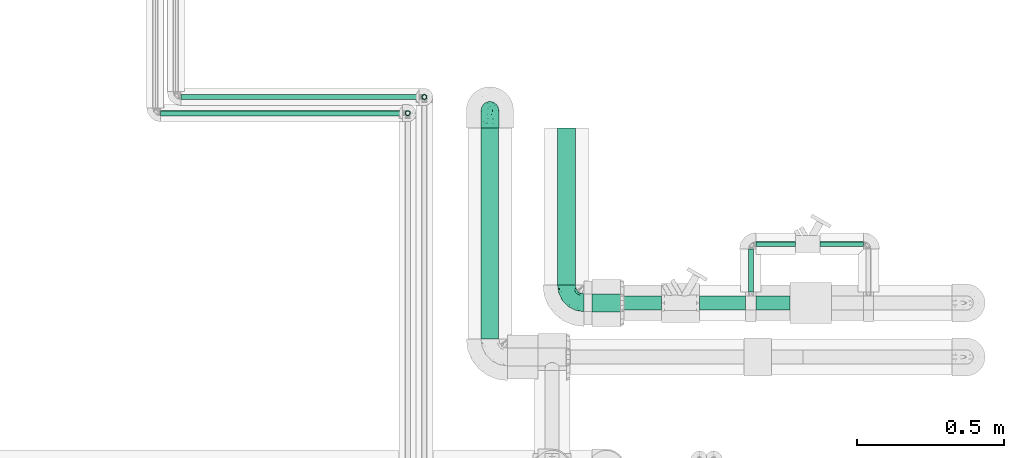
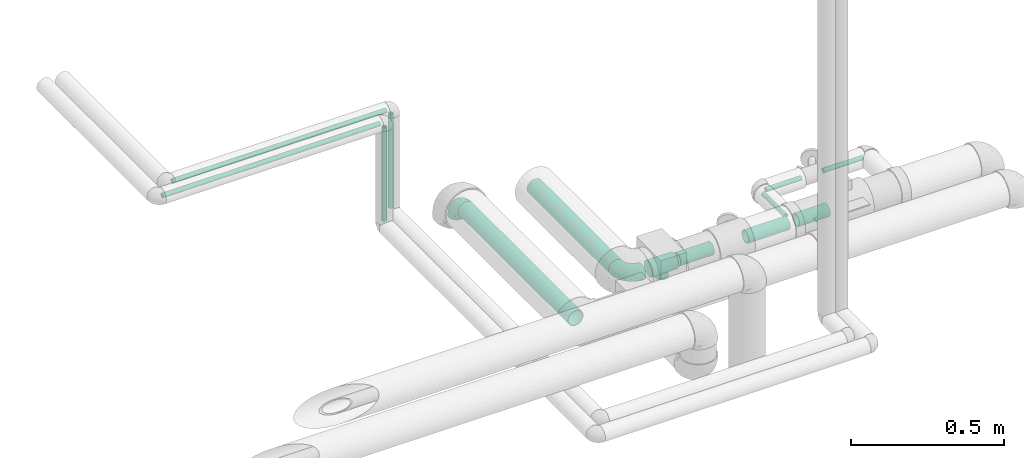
# One storey, part 38 of 83: 12 flow segments, 3 flow fittings.
"""IFC2X3 building model written with IfcOpenShell, lengths in millimetres."""

from ifc_helpers import new_model, entity, si_unit, converted_unit, derived_unit, direction, frame, origin_with_axes, origin_2d_with_axis, place, context, subcontext, project, spatial, hollow_circle, extrude, open_shell, surface_model, source, transform, mapped, type_object, element, save


model = new_model("IFC2X3")

# Units and contexts
model_context = context("Model", 3, precision=0.01, world=frame((0.0, 4.29681676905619e-09, 0.0)), true_north=direction((4.01073788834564e-13, 1.0)))
plan_context = context("Plan", 3, precision=0.01, world=frame((0.0, 4.29681676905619e-09, 0.0)), true_north=direction((4.01073788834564e-13, 1.0)))
body_context = subcontext(model_context, "Body", "Model", "MODEL_VIEW")
ifc_project = project(units=[converted_unit("PLANEANGLEUNIT", "DEGREE", entity("IfcPositiveLengthMeasure", 0.0174532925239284), si_unit("PLANEANGLEUNIT", "RADIAN"), dimensions=[0, 0, 0, 0, 0, 0, 0]), si_unit("AREAUNIT", "SQUARE_METRE"), si_unit("LENGTHUNIT", "METRE", prefix="MILLI"), si_unit("MASSUNIT", "GRAM", prefix="KILO"), si_unit("POWERUNIT", "WATT"), si_unit("PRESSUREUNIT", "PASCAL"), si_unit("FORCEUNIT", "NEWTON", prefix="KILO"), si_unit("ELECTRICVOLTAGEUNIT", "VOLT"), si_unit("ELECTRICCURRENTUNIT", "AMPERE"), si_unit("THERMODYNAMICTEMPERATUREUNIT", "DEGREE_CELSIUS"), si_unit("TIMEUNIT", "SECOND"), si_unit("VOLUMEUNIT", "CUBIC_METRE"), derived_unit("LINEARVELOCITYUNIT", [(si_unit("LENGTHUNIT", "METRE"), 1), (si_unit("TIMEUNIT", "SECOND"), -1)]), derived_unit("VOLUMETRICFLOWRATEUNIT", [(si_unit("VOLUMEUNIT", "CUBIC_METRE"), 1), (si_unit("TIMEUNIT", "SECOND"), -1)]), derived_unit("THERMALTRANSMITTANCEUNIT", [(si_unit("POWERUNIT", "WATT"), 1), (si_unit("THERMODYNAMICTEMPERATUREUNIT", "KELVIN"), -1), (si_unit("AREAUNIT", "SQUARE_METRE"), -1)]), derived_unit("SOUNDPRESSUREUNIT", [(si_unit("PRESSUREUNIT", "PASCAL"), 1)])], contexts=[model_context, plan_context])

# Site, building, storey
site_placement = place(None, frame((0.0, -4.29681676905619e-09, 0.0), z_axis=(0.0, 0.0, 1.0), x_axis=(1.0, 0.0, 0.0)))
site = spatial("IfcSite", under=ifc_project, at=site_placement, Name="ENGM", CompositionType="ELEMENT")
building_placement = place(site_placement, frame((0.0, 4.29681676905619e-09, 0.0), z_axis=(0.0, 0.0, 1.0), x_axis=(1.0, 0.0, 0.0)))
building = spatial("IfcBuilding", under=site, at=building_placement, Name="TI", CompositionType="ELEMENT")
storey_placement = place(building_placement, frame((0.0, 0.0, 204000.0), z_axis=(0.0, 0.0, 1.0), x_axis=(1.0, 0.0, 0.0)))
storey = spatial("IfcBuildingStorey", under=building, at=storey_placement, Name="Nivå D", CompositionType="ELEMENT", Elevation=204000.0)

# Flow fittings
pipe_fitting_type_1 = type_object("IfcPipeFittingType", Name="magi_pipe_fe_elbow_short_001", PredefinedType="BEND")
shared_shape_1 = source(origin_with_axes(), body_context, "Body", "SurfaceModel", [
    surface_model("IfcShellBasedSurfaceModel", [(-60.4, 15.1, -26.15397), (-60.4, 7.81634, -29.17096), (-60.4, 0.0, -30.2), (-60.4, 21.35462, -21.35462), (-60.4, 26.15397, -15.1), (-60.4, -15.1, -26.15397), (-60.4, -21.35462, -21.35462), (-60.4, -7.81634, -29.17096), (-60.4, -26.15397, -15.1), (-60.4, -29.17096, -7.81634), (-60.4, 29.17096, -7.81634), (-60.4, -30.2, 0.0), (-60.4, -29.17096, 7.81634), (-60.4, 29.17096, 7.81634), (-60.4, -21.35462, 21.35462), (-60.4, 26.15397, 15.1), (-60.4, 21.35462, 21.35462), (-60.4, 7.81634, 29.17096), (-60.4, 15.1, 26.15397), (-60.4, -26.15397, 15.1), (-60.4, -7.81634, 29.17096), (-60.4, 0.0, 30.2), (-60.4, -15.1, 26.15397), (-60.4, 30.2, 0.0), (0.0, 60.4, -30.2), (-7.81634, 60.4, -29.17096), (-15.1, 60.4, -26.15397), (-26.15397, 60.4, -15.1), (-29.17096, 60.4, -7.81634), (-21.35462, 60.4, -21.35462), (29.17096, 60.4, -7.81634), (7.81634, 60.4, -29.17096), (21.35462, 60.4, -21.35462), (15.1, 60.4, -26.15397), (26.15397, 60.4, -15.1), (29.17096, 60.4, 7.81634), (30.2, 60.4, 0.0), (-29.17096, 60.4, 7.81634), (21.35462, 60.4, 21.35462), (-21.35462, 60.4, 21.35462), (-26.15397, 60.4, 15.1), (-15.1, 60.4, 26.15397), (-7.81634, 60.4, 29.17096), (26.15397, 60.4, 15.1), (15.1, 60.4, 26.15397), (0.0, 60.4, 30.2), (7.81634, 60.4, 29.17096), (-30.2, 60.4, 0.0), (-40.79975, -26.48639, 9.49143), (-44.2927, -23.46036, 16.95222), (-32.40306, -25.76572, 0.0), (-45.54716, -27.84754, 0.0), (-7.73382, -10.42985, 11.64553), (-2.102, -8.06735, 6.35117), (1.74449, -1.74448, 12.51332), (-46.13593, -4.00068, 29.68351), (-42.2898, 4.62925, 30.14853), (10.31662, 7.37496, 11.34434), (18.44156, 24.57514, 15.02148), (7.07276, 10.95732, 19.27498), (-30.06693, -0.27102, 29.27145), (-44.17726, -11.39441, 27.16031), (-23.4551, -7.13383, 25.24246), (-38.74025, -17.25266, 22.43475), (-27.059, -23.14697, 6.2131), (-19.77486, -19.33133, 0.0), (-10.95732, -7.07276, 19.27498), (-5.39458, 5.39458, 24.69106), (-29.52069, 48.20084, 13.12597), (-25.22813, 47.01796, 19.8404), (-11.27311, 52.093, 28.2877), (-4.13904, 45.17494, 30.12582), (-46.55352, 11.8443, 28.52822), (-7.88305, 20.22717, 29.65331), (-15.00576, 5.54025, 28.20072), (-3.0852, 16.31623, 27.75343), (-52.24998, 18.2886, 24.60768), (-10.49591, 29.69865, 30.14582), (-22.36958, 22.36958, 29.4662), (-17.98262, 13.19715, 30.04443), (-47.74519, 32.16745, 6.63994), (-48.21585, 29.51581, 13.12396), (-37.49729, 37.49729, 11.28901), (-47.20967, 25.1754, 19.81929), (17.25266, 38.74025, 22.43475), (-31.32046, 40.03273, 17.09289), (11.39441, 44.17725, 27.16031), (23.46036, 44.2927, 16.95222), (26.48639, 40.79975, 9.49143), (-7.14666, -12.89694, 0.0), (-14.66463, -16.61192, 7.82462), (4.00068, 46.13593, 29.68351), (-33.18602, 12.93608, 29.65955), (-29.63414, 7.40029, 30.18711), (19.33133, 19.77486, 0.0), (23.14697, 27.059, 6.2131), (16.61192, 14.66463, 7.82462), (27.84754, 45.54716, 0.0), (-32.10611, 20.49149, 27.93323), (-24.57514, -18.44156, 15.02148), (-21.89487, 39.03366, 25.38224), (-18.45005, 50.6405, 24.73297), (-31.78933, 48.71949, 6.47886), (-37.84917, 39.61073, 5.315), (13.91334, 24.32737, 20.46816), (7.13383, 23.4551, 25.24246), (-34.24603, 45.3, 0.0), (-27.95749, 31.89166, 24.81537), (-41.58677, 20.50028, 25.43151), (-0.46157, 0.46157, 17.84239), (-17.23338, 31.26213, 29.03145), (-24.05994, 29.23812, 27.47858), (-13.06094, 40.92174, 28.76128), (-31.83392, 33.72702, 21.39203), (-38.78737, 32.45032, 16.84022), (0.27102, 30.06693, 29.27145), (-24.21469, -13.23741, 21.05734), (8.23548, 2.19333, 6.02161), (25.76572, 32.40306, 0.0), (12.89694, 7.14666, 0.0), (-45.3, 34.24603, 0.0), (2.87514, -2.87514, 0.0), (-44.53432, 26.00869, -20.11577), (-48.18822, 29.5248, -13.12766), (-24.67192, -7.62159, -25.33714), (-26.22398, -0.37671, -28.72374), (-12.13397, -0.50536, -24.74577), (-47.80891, 3.81859, -30.10171), (-44.05719, -27.03585, -9.84546), (-37.94552, -22.39569, -16.35738), (-28.81663, -22.64668, -10.132), (-43.93799, 12.32789, -28.63778), (-33.27, 7.1392, -30.19348), (-26.0087, 44.53432, -20.11577), (-48.89164, 31.68872, -6.60822), (-18.95522, 47.41145, -24.9828), (-12.32789, 43.93799, -28.63778), (-38.42778, 38.42778, -7.21049), (18.04263, 43.69152, -22.80146), (10.42233, 38.24532, -26.85918), (11.90576, 51.00473, -27.48545), (-5.88381, -10.62327, -7.95335), (-5.9694, -7.83116, -13.76182), (3.24899, -2.56331, -7.96861), (-17.62229, 16.32998, -30.18286), (-28.62959, 17.86952, -29.30113), (-47.41145, 18.95522, -24.98279), (-50.84455, -24.04089, -17.54629), (-29.38053, 34.30665, -22.74674), (-27.91099, 27.91099, -26.51666), (-36.91219, 25.51094, -23.99233), (2.63361, -0.55507, -12.94367), (-43.69152, -18.04263, -22.80146), (22.39569, 37.94552, -16.35738), (27.03585, 44.05719, -9.84546), (22.64668, 28.81663, -10.132), (-51.00473, -11.90576, -27.48545), (3.80785, 44.49426, -29.64782), (-19.0921, -14.69952, -16.47487), (-22.5489, -12.31934, -21.1263), (-10.94772, -7.46239, -18.88204), (-32.95885, -13.78948, -23.71249), (-38.24532, -10.42233, -26.85918), (-44.49427, -3.80785, -29.64782), (-22.6301, 37.15314, -25.58239), (-31.68872, 48.89164, -6.60822), (-3.8186, 47.80891, -30.10171), (-10.66133, 10.66133, -28.51691), (0.37671, 26.22398, -28.72374), (1.27136, 14.18619, -25.18541), (-29.5248, 48.18821, -13.12766), (-36.27113, 36.27113, -14.88553), (24.04089, 50.84455, -17.54629), (17.50188, 24.2636, -16.21902), (9.73525, 11.44907, -16.75087), (12.31934, 22.5489, -21.1263), (6.24176, 25.78208, -26.38266), (-7.1392, 33.27, -30.19348), (-36.7166, 19.4356, -27.21946), (-18.00754, 29.38864, -29.15505), (-0.28629, 0.28629, -17.49884), (-13.98848, -16.88492, -5.19509), (15.48569, 15.00432, -11.24742), (16.88492, 13.98848, -5.19509), (3.55782, 9.20508, -21.18402), (-15.00432, -15.48569, -11.24742)], [open_shell([[[0, 1, 2]], [[3, 0, 4]], [[5, 6, 7]], [[6, 2, 7]], [[8, 9, 6]], [[0, 2, 6]], [[4, 0, 6]], [[10, 4, 6]], [[6, 9, 10]], [[11, 12, 9]], [[13, 10, 9]], [[13, 9, 14]], [[15, 13, 16]], [[17, 18, 16]], [[13, 17, 16]], [[17, 13, 14]], [[19, 14, 12]], [[12, 14, 9]], [[20, 21, 22]], [[17, 14, 22]], [[17, 22, 21]], [[13, 23, 10]], [[24, 25, 26]], [[24, 26, 27]], [[27, 28, 24]], [[27, 26, 29]], [[24, 28, 30]], [[31, 32, 33]], [[31, 24, 32]], [[32, 30, 34]], [[24, 30, 32]], [[30, 35, 36]], [[30, 28, 37]], [[38, 30, 37]], [[39, 37, 40]], [[39, 41, 42]], [[39, 42, 37]], [[38, 37, 42]], [[35, 38, 43]], [[30, 38, 35]], [[44, 45, 46]], [[44, 38, 42]], [[45, 44, 42]], [[28, 47, 37]], [[48, 49, 19]], [[50, 48, 51]], [[52, 53, 54]], [[12, 48, 19]], [[12, 51, 48]], [[21, 55, 56]], [[19, 49, 14]], [[57, 58, 59]], [[60, 61, 62]], [[63, 22, 14]], [[63, 61, 22]], [[64, 50, 65]], [[62, 66, 67]], [[40, 68, 69]], [[42, 70, 71]], [[17, 72, 18]], [[73, 74, 75]], [[18, 76, 16]], [[20, 55, 21]], [[77, 78, 79]], [[80, 81, 82]], [[15, 83, 81]], [[84, 38, 44]], [[23, 13, 80]], [[13, 15, 81]], [[68, 85, 69]], [[83, 15, 16]], [[21, 56, 17]], [[44, 86, 84]], [[16, 76, 83]], [[87, 58, 88]], [[40, 37, 68]], [[89, 90, 65]], [[45, 91, 46]], [[65, 90, 64]], [[45, 42, 71]], [[92, 93, 79]], [[88, 35, 43]], [[43, 38, 87]], [[87, 88, 43]], [[94, 95, 96]], [[88, 97, 35]], [[98, 72, 92]], [[49, 99, 63]], [[69, 100, 101]], [[82, 102, 103]], [[104, 105, 59]], [[106, 102, 47]], [[98, 107, 108]], [[102, 82, 68]], [[86, 44, 46]], [[69, 39, 40]], [[109, 54, 57]], [[110, 100, 111]], [[22, 61, 20]], [[101, 41, 39]], [[70, 42, 41]], [[112, 77, 71]], [[84, 86, 105]], [[96, 95, 58]], [[100, 69, 113]], [[72, 17, 56]], [[108, 113, 83]], [[81, 114, 82]], [[112, 110, 77]], [[91, 71, 115]], [[62, 61, 63]], [[55, 61, 60]], [[116, 99, 66]], [[74, 62, 67]], [[91, 86, 46]], [[105, 86, 115]], [[75, 105, 115]], [[109, 67, 66]], [[59, 105, 67]], [[48, 64, 99]], [[99, 49, 48]], [[63, 14, 49]], [[38, 84, 87]], [[58, 87, 84]], [[92, 72, 56]], [[76, 72, 108]], [[102, 68, 37]], [[82, 114, 85]], [[98, 111, 107]], [[112, 70, 101]], [[114, 83, 113]], [[82, 103, 80]], [[92, 79, 78]], [[115, 71, 77]], [[74, 79, 60]], [[77, 79, 73]], [[71, 91, 45]], [[86, 91, 115]], [[61, 55, 20]], [[56, 55, 60]], [[57, 54, 117]], [[104, 59, 58]], [[116, 66, 62]], [[52, 99, 90]], [[12, 11, 51]], [[97, 88, 118]], [[97, 36, 35]], [[53, 90, 89]], [[90, 53, 52]], [[94, 96, 119]], [[88, 95, 118]], [[117, 54, 53]], [[92, 56, 93]], [[98, 92, 78]], [[111, 98, 78]], [[72, 98, 108]], [[110, 111, 78]], [[107, 111, 100]], [[47, 102, 37]], [[102, 106, 103]], [[106, 120, 103]], [[103, 120, 80]], [[23, 80, 120]], [[13, 81, 80]], [[56, 60, 93]], [[60, 79, 93]], [[117, 121, 119]], [[121, 117, 53]], [[53, 89, 121]], [[119, 96, 117]], [[117, 96, 57]], [[77, 110, 78]], [[100, 110, 112]], [[83, 114, 81]], [[85, 114, 113]], [[69, 85, 113]], [[82, 85, 68]], [[109, 52, 54]], [[99, 52, 66]], [[69, 101, 39]], [[112, 101, 100]], [[100, 113, 107]], [[108, 107, 113]], [[62, 74, 60]], [[75, 74, 67]], [[105, 75, 67]], [[73, 75, 115]], [[77, 73, 115]], [[74, 73, 79]], [[99, 64, 90]], [[50, 64, 48]], [[118, 95, 94]], [[58, 95, 88]], [[58, 57, 96]], [[109, 57, 59]], [[72, 76, 18]], [[83, 76, 108]], [[101, 70, 41]], [[71, 70, 112]], [[58, 84, 104]], [[105, 104, 84]], [[67, 109, 59]], [[52, 109, 66]], [[62, 63, 116]], [[99, 116, 63]], [[122, 4, 123]], [[124, 125, 126]], [[2, 1, 127]], [[128, 129, 130]], [[127, 131, 132]], [[27, 29, 133]], [[120, 134, 23]], [[135, 26, 136]], [[123, 134, 137]], [[138, 139, 140]], [[122, 3, 4]], [[141, 142, 143]], [[144, 132, 145]], [[131, 0, 146]], [[128, 8, 147]], [[148, 149, 150]], [[128, 51, 9]], [[142, 151, 143]], [[152, 6, 5]], [[153, 154, 155]], [[156, 152, 5]], [[31, 157, 24]], [[158, 159, 160]], [[147, 8, 6]], [[129, 152, 161]], [[156, 5, 7]], [[162, 163, 125]], [[154, 34, 30]], [[120, 106, 137]], [[149, 148, 164]], [[47, 28, 165]], [[163, 7, 2]], [[4, 10, 123]], [[25, 166, 136]], [[167, 168, 169]], [[170, 133, 171]], [[25, 24, 166]], [[33, 32, 138]], [[157, 31, 140]], [[28, 27, 170]], [[32, 34, 172]], [[26, 135, 29]], [[132, 131, 145]], [[31, 33, 140]], [[173, 174, 175]], [[169, 168, 176]], [[25, 136, 26]], [[175, 138, 173]], [[168, 177, 157]], [[163, 162, 156]], [[153, 172, 154]], [[8, 128, 9]], [[154, 97, 118]], [[131, 178, 145]], [[0, 3, 146]], [[175, 139, 138]], [[155, 118, 94]], [[131, 1, 0]], [[146, 178, 131]], [[170, 137, 165]], [[149, 179, 145]], [[171, 133, 148]], [[160, 180, 142]], [[65, 181, 89]], [[170, 165, 28]], [[137, 171, 123]], [[172, 138, 32]], [[138, 153, 173]], [[168, 157, 139]], [[166, 157, 177]], [[176, 175, 169]], [[168, 167, 144]], [[154, 30, 97]], [[155, 182, 173]], [[162, 124, 161]], [[147, 152, 129]], [[127, 163, 2]], [[132, 144, 125]], [[132, 125, 163]], [[125, 167, 126]], [[129, 158, 130]], [[30, 36, 97]], [[143, 182, 183]], [[169, 126, 167]], [[3, 122, 146]], [[178, 150, 149]], [[136, 179, 164]], [[133, 29, 135]], [[123, 10, 134]], [[122, 123, 171]], [[133, 170, 27]], [[137, 170, 171]], [[184, 175, 174]], [[180, 160, 126]], [[126, 169, 184]], [[126, 159, 124]], [[51, 128, 50]], [[51, 11, 9]], [[131, 127, 1]], [[163, 127, 132]], [[157, 166, 24]], [[136, 166, 177]], [[164, 179, 149]], [[144, 167, 125]], [[179, 144, 145]], [[168, 144, 177]], [[136, 177, 179]], [[144, 179, 177]], [[141, 121, 89]], [[89, 181, 141]], [[154, 118, 155]], [[183, 155, 94]], [[143, 183, 119]], [[119, 183, 94]], [[155, 183, 182]], [[181, 130, 185]], [[50, 128, 130]], [[130, 181, 65]], [[50, 130, 65]], [[141, 181, 185]], [[142, 141, 185]], [[143, 121, 141]], [[158, 160, 142]], [[142, 180, 151]], [[158, 142, 185]], [[126, 160, 159]], [[130, 158, 185]], [[129, 159, 158]], [[23, 134, 10]], [[120, 137, 134]], [[137, 106, 165]], [[47, 165, 106]], [[174, 151, 180]], [[182, 143, 151]], [[150, 146, 122]], [[149, 145, 178]], [[146, 150, 178]], [[122, 171, 148]], [[148, 150, 122]], [[164, 133, 135]], [[133, 164, 148]], [[164, 135, 136]], [[138, 140, 33]], [[157, 140, 139]], [[154, 172, 34]], [[138, 172, 153]], [[163, 156, 7]], [[152, 156, 162]], [[152, 147, 6]], [[128, 147, 129]], [[155, 173, 153]], [[174, 173, 182]], [[151, 174, 182]], [[174, 180, 184]], [[126, 184, 180]], [[175, 184, 169]], [[168, 139, 176]], [[175, 176, 139]], [[161, 124, 159]], [[125, 124, 162]], [[129, 161, 159]], [[162, 161, 152]], [[143, 119, 121]]])]),
])
for number, where, z_axis, x_axis, name in (
    (1, (608617.36825, 698092.0, 5915.24411), (0.0, 0.0, 1.0), (0.0, -1.0, 0.0), "magi_pipe_fe_elbow_short_001"),
    (2, (608357.36825, 698746.21699, 5915.24411), (-1.0, 0.0, 0.0), (0.0, 1.0, 0.0), "magi_pipe_fe_elbow_short_001"),
):
    element("IfcFlowFitting", number, at=place(storey_placement, frame(where, z_axis=z_axis, x_axis=x_axis)), inside=storey, type_object=pipe_fitting_type_1, Name=name, context=body_context, shape_type="MappedRepresentation", body=[
        mapped(shared_shape_1, transform((0.0, 0.0, 0.0), scale=1.0)),
    ])
pipe_fitting_type_2 = type_object("IfcPipeFittingType", Name="magi_pipe_fe_tee_centric_90_NOR", PredefinedType="JUNCTION")
shared_shape_2 = source(origin_with_axes(), body_context, "Body", "SurfaceModel", [
    surface_model("IfcShellBasedSurfaceModel", [(-48.4, 15.1, -26.15397), (-48.4, 7.81634, -29.17096), (-48.4, 0.0, -30.2), (-48.4, 29.17096, -7.81634), (-48.4, 26.15397, -15.1), (-48.4, 21.35462, -21.35462), (-48.4, 30.2, 0.0), (-48.4, -30.2, 0.0), (-48.4, -15.1, -26.15397), (-48.4, -21.35462, -21.35462), (-48.4, -7.81634, -29.17096), (-48.4, -26.15397, -15.1), (-48.4, -29.17096, -7.81634), (-48.4, 26.15397, 15.1), (-48.4, 29.17096, 7.81634), (-48.4, 15.1, 26.15397), (-48.4, -21.35462, 21.35462), (-48.4, 21.35462, 21.35462), (-48.4, 7.81634, 29.17096), (-48.4, -29.17096, 7.81634), (-48.4, -26.15397, 15.1), (-48.4, -15.1, 26.15397), (-48.4, -7.81634, 29.17096), (-48.4, 0.0, 30.2), (48.4, 0.0, -30.2), (48.4, 7.81634, -29.17096), (48.4, 15.1, -26.15397), (48.4, 21.35462, -21.35462), (48.4, -7.81634, -29.17096), (48.4, 26.15397, -15.1), (48.4, 29.17096, -7.81634), (48.4, -21.35462, -21.35462), (48.4, -15.1, -26.15397), (48.4, -29.17096, -7.81634), (48.4, -26.15397, -15.1), (48.4, -30.2, 0.0), (48.4, 30.2, 0.0), (48.4, 29.17096, 7.81634), (48.4, 26.15397, 15.1), (48.4, -29.17096, 7.81634), (48.4, 15.1, 26.15397), (48.4, 7.81634, 29.17096), (48.4, 21.35462, 21.35462), (48.4, -21.35462, 21.35462), (48.4, -26.15397, 15.1), (48.4, -15.1, 26.15397), (48.4, 0.0, 30.2), (48.4, -7.81634, 29.17096), (24.2, -30.2, 0.0), (22.60269, -28.93582, 8.64629), (18.34349, -25.74653, 15.78469), (12.2058, -21.80325, 20.89638), (4.41265, -18.59762, 23.7943), (-24.2, -30.2, 0.0), (-22.60359, -28.93652, 8.64395), (-12.20756, -21.80423, 20.89535), (-4.42042, -18.59947, 23.79285), (-18.34713, -25.74912, 15.78045), (4.41265, -18.59762, -23.7943), (18.34349, -25.74653, -15.78469), (12.2058, -21.80325, -20.89638), (22.60269, -28.93582, -8.64629), (-4.42042, -18.59947, -23.79285), (-12.20756, -21.80423, -20.89535), (-18.34713, -25.74912, -15.78045), (-22.60359, -28.93652, -8.64395), (0.0, -45.3, -24.2), (6.26342, -45.3, -23.37541), (12.1, -45.3, -20.95781), (12.1, -45.3, 20.95781), (17.11198, -45.3, -17.11198), (20.95781, -45.3, -12.1), (23.37541, -45.3, -6.26342), (-12.1, -45.3, -20.95781), (-20.95781, -45.3, -12.1), (-17.11198, -45.3, -17.11198), (-6.26342, -45.3, -23.37541), (-23.37541, -45.3, -6.26342), (-24.2, -45.3, 0.0), (24.2, -45.3, 0.0), (23.37541, -45.3, 6.26342), (20.95781, -45.3, 12.1), (-23.37541, -45.3, 6.26342), (17.11198, -45.3, 17.11198), (6.26342, -45.3, 23.37541), (-17.11198, -45.3, 17.11198), (-20.95781, -45.3, 12.1), (-12.1, -45.3, 20.95781), (0.0, -45.3, 24.2), (-6.26342, -45.3, 23.37541), (-23.40179, -29.56826, 4.32197), (-0.00389, -18.59854, 23.79357), (23.40135, -29.56791, 4.32314), (23.40135, -29.56791, -4.32314), (-0.00389, -18.59854, -23.79357), (-23.40179, -29.56826, -4.32197)], [open_shell([[[0, 1, 2]], [[3, 0, 2]], [[0, 3, 4]], [[5, 0, 4]], [[6, 2, 7]], [[8, 9, 10]], [[9, 2, 10]], [[11, 12, 9]], [[7, 9, 12]], [[9, 7, 2]], [[6, 3, 2]], [[13, 14, 6]], [[7, 15, 13]], [[7, 16, 15]], [[17, 13, 15]], [[18, 15, 16]], [[19, 20, 7]], [[7, 20, 16]], [[21, 22, 16]], [[23, 16, 22]], [[16, 23, 18]], [[7, 13, 6]], [[24, 25, 26]], [[24, 26, 27]], [[28, 27, 29]], [[27, 28, 24]], [[28, 29, 30]], [[28, 31, 32]], [[31, 28, 33]], [[31, 33, 34]], [[33, 28, 35]], [[28, 30, 35]], [[30, 36, 35]], [[36, 37, 38]], [[39, 36, 38]], [[40, 41, 38]], [[40, 38, 42]], [[43, 38, 41]], [[39, 43, 44]], [[39, 38, 43]], [[45, 46, 47]], [[46, 45, 43]], [[41, 46, 43]], [[36, 39, 35]], [[35, 39, 48]], [[49, 48, 39]], [[39, 44, 49]], [[44, 43, 50]], [[51, 50, 43]], [[52, 51, 43]], [[43, 45, 52]], [[44, 50, 49]], [[53, 54, 19]], [[19, 7, 53]], [[54, 20, 19]], [[55, 56, 16]], [[20, 57, 16]], [[57, 20, 54]], [[16, 57, 55]], [[56, 21, 16]], [[52, 21, 56]], [[23, 47, 46]], [[22, 45, 47]], [[18, 46, 41]], [[38, 37, 14]], [[17, 40, 42]], [[13, 42, 38]], [[41, 40, 15]], [[6, 37, 36]], [[21, 45, 22]], [[22, 47, 23]], [[18, 23, 46]], [[41, 15, 18]], [[15, 40, 17]], [[13, 17, 42]], [[14, 13, 38]], [[37, 6, 14]], [[45, 21, 52]], [[4, 30, 29]], [[3, 36, 30]], [[5, 29, 27]], [[24, 28, 10]], [[1, 26, 25]], [[2, 25, 24]], [[27, 26, 0]], [[8, 28, 32]], [[6, 36, 3]], [[3, 30, 4]], [[5, 4, 29]], [[27, 0, 5]], [[0, 26, 1]], [[2, 1, 25]], [[10, 2, 24]], [[28, 8, 10]], [[32, 58, 8]], [[31, 59, 60]], [[59, 31, 34]], [[60, 58, 31]], [[31, 58, 32]], [[33, 35, 48]], [[33, 61, 34]], [[61, 33, 48]], [[34, 61, 59]], [[62, 63, 9]], [[9, 64, 11]], [[64, 9, 63]], [[62, 9, 8]], [[65, 53, 12]], [[65, 12, 11]], [[12, 53, 7]], [[65, 11, 64]], [[58, 62, 8]], [[66, 67, 68]], [[69, 66, 68]], [[70, 71, 72]], [[70, 72, 68]], [[69, 73, 66]], [[73, 74, 75]], [[73, 76, 66]], [[73, 77, 74]], [[77, 73, 78]], [[73, 69, 78]], [[79, 68, 72]], [[79, 80, 81]], [[79, 81, 69]], [[69, 82, 78]], [[69, 81, 83]], [[82, 69, 84]], [[82, 85, 86]], [[82, 84, 85]], [[87, 88, 89]], [[88, 87, 85]], [[84, 88, 85]], [[69, 68, 79]], [[82, 90, 78]], [[57, 86, 85]], [[82, 86, 54]], [[85, 87, 55]], [[90, 53, 78]], [[54, 86, 57]], [[55, 89, 56]], [[55, 57, 85]], [[88, 52, 91]], [[55, 87, 89]], [[92, 79, 48]], [[92, 49, 80]], [[82, 54, 90]], [[84, 52, 88]], [[49, 81, 80]], [[81, 50, 83]], [[88, 56, 89]], [[84, 51, 52]], [[51, 84, 69]], [[69, 83, 51]], [[51, 83, 50]], [[50, 81, 49]], [[79, 92, 80]], [[91, 56, 88]], [[72, 93, 79]], [[59, 71, 70]], [[72, 71, 61]], [[70, 68, 60]], [[93, 48, 79]], [[61, 71, 59]], [[60, 67, 58]], [[60, 59, 70]], [[66, 62, 94]], [[60, 68, 67]], [[95, 78, 53]], [[95, 65, 77]], [[63, 73, 75]], [[72, 61, 93]], [[65, 74, 77]], [[75, 74, 64]], [[66, 58, 67]], [[62, 76, 63]], [[62, 66, 76]], [[76, 73, 63]], [[63, 75, 64]], [[64, 74, 65]], [[78, 95, 77]], [[94, 58, 66]]])]),
])
flow_fitting_placement = place(storey_placement, frame((608752.77351, 698092.0, 5915.24411), z_axis=(0.0, -1.0, 0.0), x_axis=(1.0, 0.0, 0.0)))
element("IfcFlowFitting", 3, at=flow_fitting_placement, inside=storey, type_object=pipe_fitting_type_2, Name="magi_pipe_fe_tee_centric_90_NOR", context=body_context, shape_type="MappedRepresentation", body=[
    mapped(shared_shape_2, transform((0.0, 0.0, 0.0), scale=1.0)),
])

# Flow segments
pipe_segment_type_1 = type_object("IfcPipeSegmentType", Name="Stålrør normaltykke", PredefinedType="RIGIDSEGMENT")
shared_shape_3 = source(origin_with_axes(), body_context, "Body", "SweptSolid", [
    extrude(hollow_circle(Radius=30.1, WallThickness=2.0, at=origin_2d_with_axis()), frame((0.0, 0.0, 0.0), z_axis=(1.0, 0.0, 0.0), x_axis=(0.0, 1.0, 0.0)), (0.0, 0.0, 1.0), 533.4),
])
flow_segment_1_placement = place(storey_placement, frame((608617.36825, 698685.81699, 5915.24411), z_axis=(0.0, 0.0, 1.0), x_axis=(0.0, -1.0, 0.0)))
element("IfcFlowSegment", 4, at=flow_segment_1_placement, inside=storey, type_object=pipe_segment_type_1, Name="Stålrør normaltykke", context=body_context, shape_type="MappedRepresentation", body=[
    mapped(shared_shape_3, transform((0.0, 0.0, 0.0), scale=1.0)),
])
shared_shape_4 = source(origin_with_axes(), body_context, "Body", "SweptSolid", [
    extrude(hollow_circle(Radius=30.1, WallThickness=2.0, at=origin_2d_with_axis()), frame((0.0, 0.0, 0.0), z_axis=(1.0, 0.0, 0.0), x_axis=(0.0, 1.0, 0.0)), (0.0, 0.0, 1.0), 717.4),
])
flow_segment_2_placement = place(storey_placement, frame((608357.22198, 698685.81699, 5915.24411), z_axis=(0.0, 0.0, 1.0), x_axis=(0.0, -1.0, 0.0)))
element("IfcFlowSegment", 5, at=flow_segment_2_placement, inside=storey, type_object=pipe_segment_type_1, Name="Stålrør normaltykke", context=body_context, shape_type="MappedRepresentation", body=[
    mapped(shared_shape_4, transform((0.0, 0.0, 0.0), scale=1.0)),
])
shared_shape_5 = source(origin_with_axes(), body_context, "Body", "SweptSolid", [
    extrude(hollow_circle(Radius=8.6, WallThickness=2.0, at=origin_2d_with_axis()), frame((0.0, 0.0, 0.0), z_axis=(1.0, 0.0, 0.0), x_axis=(0.0, 1.0, 0.0)), (0.0, 0.0, 1.0), 146.5),
])
flow_segment_3_placement = place(storey_placement, frame((609244.07456, 698128.3, 5915.20000000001), z_axis=(0.0, 0.0, 1.0), x_axis=(0.0, 1.0, 0.0)))
element("IfcFlowSegment", 6, at=flow_segment_3_placement, inside=storey, type_object=pipe_segment_type_1, Name="Stålrør normaltykke", context=body_context, shape_type="MappedRepresentation", body=[
    mapped(shared_shape_5, transform((0.0, 0.0, 0.0), scale=1.0, scale2=1.0, scale3=1.0, uniform=False)),
])
shared_shape_6 = source(origin_with_axes(), body_context, "Body", "SweptSolid", [
    extrude(hollow_circle(Radius=8.6, WallThickness=2.0, at=origin_2d_with_axis()), frame((0.0, 0.0, 0.0), z_axis=(1.0, 0.0, 0.0), x_axis=(0.0, 1.0, 0.0)), (0.0, 0.0, 1.0), 134.6),
])
flow_segment_4_placement = place(storey_placement, frame((609395.82456, 698292.0, 5915.20000000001), z_axis=(0.0, 0.0, 1.0), x_axis=(-1.0, 0.0, 0.0)))
element("IfcFlowSegment", 7, at=flow_segment_4_placement, inside=storey, type_object=pipe_segment_type_1, Name="Stålrør normaltykke", context=body_context, shape_type="MappedRepresentation", body=[
    mapped(shared_shape_6, transform((0.0, 0.0, 0.0), scale=1.0)),
])
shared_shape_7 = source(origin_with_axes(), body_context, "Body", "SweptSolid", [
    extrude(hollow_circle(Radius=24.1, WallThickness=2.0, at=origin_2d_with_axis()), frame((0.0, 0.0, 0.0), z_axis=(1.0, 0.0, 0.0), x_axis=(0.0, 1.0, 0.0)), (0.0, 0.0, 1.0), 116.5),
])
flow_segment_5_placement = place(storey_placement, frame((609377.73353, 698092.0, 5915.24411), z_axis=(0.0, 0.0, 1.0), x_axis=(-1.0, 0.0, 0.0)))
element("IfcFlowSegment", 8, at=flow_segment_5_placement, inside=storey, type_object=pipe_segment_type_1, Name="Stålrør normaltykke", context=body_context, shape_type="MappedRepresentation", body=[
    mapped(shared_shape_7, transform((0.0, 0.0, 0.0), scale=1.0)),
])
shared_shape_8 = source(origin_with_axes(), body_context, "Body", "SweptSolid", [
    extrude(hollow_circle(Radius=8.6, WallThickness=2.0, at=origin_2d_with_axis()), frame((0.0, 0.0, 0.0), z_axis=(1.0, 0.0, 0.0), x_axis=(0.0, 1.0, 0.0)), (0.0, 0.0, 1.0), 148.0),
])
flow_segment_6_placement = place(storey_placement, frame((609626.87456, 698292.0, 5915.20000000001), z_axis=(0.0, 0.0, 1.0), x_axis=(-1.0, 0.0, 0.0)))
element("IfcFlowSegment", 9, at=flow_segment_6_placement, inside=storey, type_object=pipe_segment_type_1, Name="Stålrør normaltykke", context=body_context, shape_type="MappedRepresentation", body=[
    mapped(shared_shape_8, transform((0.0, 0.0, 0.0), scale=1.0)),
])
shared_shape_9 = source(origin_with_axes(), body_context, "Body", "SweptSolid", [
    extrude(hollow_circle(Radius=24.1, WallThickness=2.0, at=origin_2d_with_axis()), frame((0.0, 0.0, 0.0), z_axis=(1.0, 0.0, 0.0), x_axis=(0.0, 1.0, 0.0)), (0.0, 0.0, 1.0), 156.6),
])
flow_segment_7_placement = place(storey_placement, frame((609226.87456, 698092.0, 5915.24411), z_axis=(0.0, 0.0, 1.0), x_axis=(-1.0, 0.0, 0.0)))
element("IfcFlowSegment", 10, at=flow_segment_7_placement, inside=storey, type_object=pipe_segment_type_1, Name="Stålrør normaltykke", context=body_context, shape_type="MappedRepresentation", body=[
    mapped(shared_shape_9, transform((0.0, 0.0, 0.0), scale=1.0)),
])
shared_shape_10 = source(origin_with_axes(), body_context, "Body", "SweptSolid", [
    extrude(hollow_circle(Radius=24.1, WallThickness=2.0, at=origin_2d_with_axis()), frame((0.0, 0.0, 0.0), z_axis=(1.0, 0.0, 0.0), x_axis=(0.0, 1.0, 0.0)), (0.0, 0.0, 1.0), 127.1),
])
flow_segment_8_placement = place(storey_placement, frame((608940.27966, 698092.0, 5915.24411), z_axis=(0.0, 0.0, 1.0), x_axis=(-1.0, 0.0, 0.0)))
element("IfcFlowSegment", 11, at=flow_segment_8_placement, inside=storey, type_object=pipe_segment_type_1, Name="Stålrør normaltykke", context=body_context, shape_type="MappedRepresentation", body=[
    mapped(shared_shape_10, transform((0.0, 0.0, 0.0), scale=1.0)),
])
pipe_segment_type_2 = type_object("IfcPipeSegmentType", Name="Kobberrør", PredefinedType="RIGIDSEGMENT")
shared_shape_11 = source(origin_with_axes(), body_context, "Body", "SweptSolid", [
    extrude(hollow_circle(Radius=9.0, WallThickness=2.0, at=origin_2d_with_axis()), frame((0.0, 0.0, 0.0), z_axis=(1.0, 0.0, 0.0), x_axis=(0.0, 1.0, 0.0)), (0.0, 0.0, 1.0), 809.0),
])
flow_segment_9_placement = place(storey_placement, frame((607307.38671, 698791.7695, 6330.0), z_axis=(0.0, 0.0, 1.0), x_axis=(1.0, 0.0, 0.0)))
element("IfcFlowSegment", 12, at=flow_segment_9_placement, inside=storey, type_object=pipe_segment_type_2, Name="Kobberrør", context=body_context, shape_type="MappedRepresentation", body=[
    mapped(shared_shape_11, transform((0.0, 0.0, 0.0), scale=1.0)),
])
shared_shape_12 = source(origin_with_axes(), body_context, "Body", "SweptSolid", [
    extrude(hollow_circle(Radius=9.0, WallThickness=2.0, at=origin_2d_with_axis()), frame((0.0, 0.0, 0.0), z_axis=(1.0, 0.0, 0.0), x_axis=(0.0, 1.0, 0.0)), (0.0, 0.0, 1.0), 374.0),
])
for number, where, z_axis, x_axis in (
    (13, (608134.38671, 698791.7695, 6312.0), (0.0, -1.0, 0.0), (0.0, 0.0, -1.0)),
    (14, (608077.81817, 698736.7695, 6312.0), (0.0, 1.0, 0.0), (0.0, 0.0, -1.0)),
):
    element("IfcFlowSegment", number, at=place(storey_placement, frame(where, z_axis=z_axis, x_axis=x_axis)), inside=storey, type_object=pipe_segment_type_2, Name="Kobberrør", context=body_context, shape_type="MappedRepresentation", body=[
        mapped(shared_shape_12, transform((0.0, 0.0, 0.0), scale=1.0)),
    ])
shared_shape_13 = source(origin_with_axes(), body_context, "Body", "SweptSolid", [
    extrude(hollow_circle(Radius=9.0, WallThickness=2.0, at=origin_2d_with_axis()), frame((0.0, 0.0, 0.0), z_axis=(1.0, 0.0, 0.0), x_axis=(0.0, 1.0, 0.0)), (0.0, 0.0, 1.0), 821.9),
])
flow_segment_10_placement = place(storey_placement, frame((607237.88671, 698736.7695, 6330.0), z_axis=(0.0, 0.0, 1.0), x_axis=(1.0, 0.0, 0.0)))
element("IfcFlowSegment", 15, at=flow_segment_10_placement, inside=storey, type_object=pipe_segment_type_2, Name="Kobberrør", context=body_context, shape_type="MappedRepresentation", body=[
    mapped(shared_shape_13, transform((0.0, 0.0, 0.0), scale=1.0)),
])

save(model, "model.ifc")
